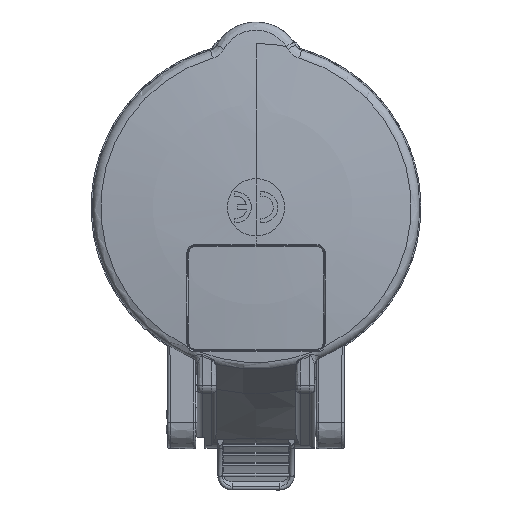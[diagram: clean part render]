
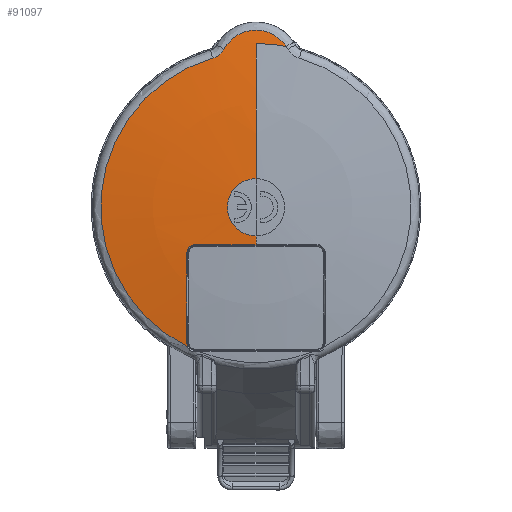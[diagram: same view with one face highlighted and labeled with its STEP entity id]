
A CAD part, front view. The second image highlights one B-rep face of the part: STEP entity #91097.
In plain terms, the highlighted spherical face has radius 250 mm.
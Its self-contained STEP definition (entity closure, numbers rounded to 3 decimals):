
#32537=CARTESIAN_POINT('',(-14.329,-48.277,
-29.182));
#32550=CARTESIAN_POINT('',(-14.329,-48.277,
-29.182));
#32551=CARTESIAN_POINT('',(-14.358,-48.284,
-29.112));
#32552=CARTESIAN_POINT('',(-14.407,-48.298,
-28.97));
#32553=CARTESIAN_POINT('',(-14.451,-48.321,
-28.749));
#32554=CARTESIAN_POINT('',(-14.462,-48.337,
-28.599));
#32555=CARTESIAN_POINT('',(-14.462,-48.346,
-28.523));
#32578=CARTESIAN_POINT('',(0.,-48.277,0.));
#32579=DIRECTION('',(0.,1.,0.));
#32580=DIRECTION('',(-0.441,0.,-0.898));
#32581=AXIS2_PLACEMENT_3D('',#32578,#32579,#32580);
#32586=CARTESIAN_POINT('',(0.,-48.043,0.));
#32587=DIRECTION('',(0.,1.,0.));
#32588=DIRECTION('',(0.,0.,1.));
#32589=AXIS2_PLACEMENT_3D('',#32586,#32587,#32588);
#32594=CARTESIAN_POINT('',(-6.633,-48.102,
33.164));
#32595=CARTESIAN_POINT('',(-6.707,-48.118,
33.03));
#32596=CARTESIAN_POINT('',(-6.866,-48.148,
32.773));
#32597=CARTESIAN_POINT('',(-7.15,-48.187,
32.415));
#32598=CARTESIAN_POINT('',(-7.47,-48.219,
32.093));
#32599=CARTESIAN_POINT('',(-7.823,-48.245,
31.81));
#32600=CARTESIAN_POINT('',(-8.208,-48.263,
31.566));
#32601=CARTESIAN_POINT('',(-8.62,-48.275,
31.367));
#32602=CARTESIAN_POINT('',(-8.904,-48.277,
31.267));
#32603=CARTESIAN_POINT('',(-9.049,-48.277,
31.225));
#34949=CARTESIAN_POINT('',(0.,199.6,0.));
#34950=DIRECTION('',(-1.,0.,0.));
#34951=DIRECTION('',(0.,-1.,-0.031));
#34952=AXIS2_PLACEMENT_3D('',#34949,#34950,#34951);
#34973=CARTESIAN_POINT('',(0.,199.6,0.));
#34974=DIRECTION('',(1.,0.,0.));
#34975=DIRECTION('',(0.,-0.991,0.137));
#34976=AXIS2_PLACEMENT_3D('',#34973,#34974,#34975);
#35504=CARTESIAN_POINT('',(-14.462,-48.346,
-28.523));
#35505=CARTESIAN_POINT('',(-14.462,-48.475,
-27.406));
#35506=CARTESIAN_POINT('',(-14.462,-48.701,
-25.302));
#35507=CARTESIAN_POINT('',(-14.462,-48.966,
-22.541));
#35508=CARTESIAN_POINT('',(-14.462,-49.172,
-20.127));
#35509=CARTESIAN_POINT('',(-14.462,-49.334,
-18.002));
#35510=CARTESIAN_POINT('',(-14.462,-49.465,
-16.085));
#35511=CARTESIAN_POINT('',(-14.462,-49.572,
-14.319));
#35512=CARTESIAN_POINT('',(-14.462,-49.662,
-12.656));
#35513=CARTESIAN_POINT('',(-14.462,-49.738,
-11.063));
#35514=CARTESIAN_POINT('',(-14.462,-49.781,
-10.022));
#35515=CARTESIAN_POINT('',(-14.462,-49.8,
-9.508));
#35538=CARTESIAN_POINT('',(-14.462,-49.8,
-9.508));
#35539=CARTESIAN_POINT('',(-14.462,-49.804,
-9.415));
#35540=CARTESIAN_POINT('',(-14.447,-49.811,
-9.232));
#35541=CARTESIAN_POINT('',(-14.38,-49.825,
-8.963));
#35542=CARTESIAN_POINT('',(-14.271,-49.84,
-8.708));
#35543=CARTESIAN_POINT('',(-14.122,-49.857,
-8.475));
#35544=CARTESIAN_POINT('',(-13.937,-49.874,
-8.268));
#35545=CARTESIAN_POINT('',(-13.722,-49.892,
-8.095));
#35546=CARTESIAN_POINT('',(-13.49,-49.909,
-7.963));
#35547=CARTESIAN_POINT('',(-13.249,-49.925,
-7.871));
#35548=CARTESIAN_POINT('',(-13.003,-49.939,
-7.818));
#35549=CARTESIAN_POINT('',(-12.841,-49.948,
-7.806));
#35550=CARTESIAN_POINT('',(-12.76,-49.952,
-7.806));
#35579=CARTESIAN_POINT('',(-12.76,-49.952,
-7.806));
#35580=CARTESIAN_POINT('',(-12.201,-49.981,
-7.806));
#35581=CARTESIAN_POINT('',(-11.144,-50.031,
-7.806));
#35582=CARTESIAN_POINT('',(-9.75,-50.089,
-7.806));
#35583=CARTESIAN_POINT('',(-8.515,-50.134,
-7.806));
#35584=CARTESIAN_POINT('',(-7.416,-50.169,
-7.806));
#35585=CARTESIAN_POINT('',(-6.41,-50.196,
-7.806));
#35586=CARTESIAN_POINT('',(-5.464,-50.219,
-7.806));
#35587=CARTESIAN_POINT('',(-4.549,-50.237,
-7.806));
#35588=CARTESIAN_POINT('',(-3.653,-50.252,
-7.806));
#35589=CARTESIAN_POINT('',(-2.758,-50.263,
-7.806));
#35590=CARTESIAN_POINT('',(-1.843,-50.272,
-7.806));
#35591=CARTESIAN_POINT('',(-0.918,-50.277,
-7.806));
#35592=CARTESIAN_POINT('',(-0.309,-50.278,
-7.806));
#35593=CARTESIAN_POINT('',(0.,-50.278,
-7.806));
#35940=CARTESIAN_POINT('',(0.,-50.328,0.));
#35941=DIRECTION('',(0.,1.,0.));
#35942=DIRECTION('',(0.,0.,-1.));
#35943=AXIS2_PLACEMENT_3D('',#35940,#35941,#35942);
#36468=CARTESIAN_POINT('',(6.338,-48.043,
33.658));
#36469=CARTESIAN_POINT('',(6.179,-48.014,
33.902));
#36470=CARTESIAN_POINT('',(5.836,-47.958,
34.369));
#36471=CARTESIAN_POINT('',(5.243,-47.882,
35.007));
#36472=CARTESIAN_POINT('',(4.582,-47.815,
35.571));
#36473=CARTESIAN_POINT('',(3.861,-47.757,
36.056));
#36474=CARTESIAN_POINT('',(3.09,-47.709,
36.455));
#36475=CARTESIAN_POINT('',(2.279,-47.672,
36.762));
#36476=CARTESIAN_POINT('',(1.439,-47.647,
36.975));
#36477=CARTESIAN_POINT('',(0.58,-47.633,
37.091));
#36478=CARTESIAN_POINT('',(-0.286,-47.631,
37.108));
#36479=CARTESIAN_POINT('',(-1.148,-47.641,
37.026));
#36480=CARTESIAN_POINT('',(-1.996,-47.662,
36.846));
#36481=CARTESIAN_POINT('',(-2.818,-47.695,
36.57));
#36482=CARTESIAN_POINT('',(-3.603,-47.739,
36.202));
#36483=CARTESIAN_POINT('',(-4.342,-47.794,
35.746));
#36484=CARTESIAN_POINT('',(-5.025,-47.858,
35.207));
#36485=CARTESIAN_POINT('',(-5.643,-47.931,
34.594));
#36486=CARTESIAN_POINT('',(-6.186,-48.013,
33.912));
#36487=CARTESIAN_POINT('',(-6.494,-48.071,
33.419));
#36488=CARTESIAN_POINT('',(-6.633,-48.102,
33.164));
#43817=VERTEX_POINT('',#36468);
#43818=VERTEX_POINT('',#36488);
#43821=VERTEX_POINT('',#32603);
#43823=CARTESIAN_POINT('',(0.,-48.043,34.25));
#43824=VERTEX_POINT('',#43823);
#43957=CARTESIAN_POINT('',(0.,-50.328,6.));
#43959=VERTEX_POINT('',#43957);
#43964=CARTESIAN_POINT('',(0.,-50.328,-6.));
#43965=VERTEX_POINT('',#43964);
#44226=VERTEX_POINT('',#32537);
#44227=VERTEX_POINT('',#32555);
#44230=VERTEX_POINT('',#35515);
#44232=VERTEX_POINT('',#35550);
#44234=VERTEX_POINT('',#35593);
#91070=CARTESIAN_POINT('',(0.,199.6,0.));
#91071=DIRECTION('',(0.,1.,0.));
#91072=DIRECTION('',(0.,0.,1.));
#91073=AXIS2_PLACEMENT_3D('',#91070,#91071,#91072);
#91074=SPHERICAL_SURFACE('1505',#91073,250.);
#91075=ORIENTED_EDGE('5633',*,*,#91048,.F.);
#91076=ORIENTED_EDGE('5654',*,*,#90895,.T.);
#91078=ORIENTED_EDGE('5232',*,*,#91077,.F.);
#91080=ORIENTED_EDGE('5230',*,*,#91079,.F.);
#91082=ORIENTED_EDGE('5234',*,*,#91081,.F.);
#91084=ORIENTED_EDGE('5371',*,*,#91083,.T.);
#91086=ORIENTED_EDGE('5358',*,*,#91085,.F.);
#91088=ORIENTED_EDGE('5656',*,*,#91087,.F.);
#91090=ORIENTED_EDGE('5639',*,*,#91089,.F.);
#91092=ORIENTED_EDGE('5637',*,*,#91091,.F.);
#91094=ORIENTED_EDGE('5635',*,*,#91093,.F.);
#91095=EDGE_LOOP('1505',(#91075,#91076,#91078,#91080,#91082,#91084,#91086,
#91088,#91090,#91092,#91094));
#91096=FACE_OUTER_BOUND('1505',#91095,.F.);
#32556=B_SPLINE_CURVE_WITH_KNOTS('5633',3,(#32550,#32551,#32552,#32553,#32554,
#32555),.UNSPECIFIED.,.F.,.F.,(4,1,1,4),(0.,0.333,
0.667,1.),.UNSPECIFIED.);
#32582=CIRCLE('5654',#32581,32.51);
#32590=CIRCLE('5234',#32589,34.25);
#32604=B_SPLINE_CURVE_WITH_KNOTS('5232',3,(#32594,#32595,#32596,#32597,#32598,
#32599,#32600,#32601,#32602,#32603),.UNSPECIFIED.,.F.,.F.,(4,1,1,1,1,1,1,4),(
0.,0.143,0.286,0.429,0.571,
0.714,0.857,1.),.UNSPECIFIED.);
#34953=CIRCLE('5656',#34952,250.);
#34977=CIRCLE('5371',#34976,250.);
#35516=B_SPLINE_CURVE_WITH_KNOTS('5635',3,(#35504,#35505,#35506,#35507,#35508,
#35509,#35510,#35511,#35512,#35513,#35514,#35515),.UNSPECIFIED.,.F.,.F.,(4,1,1,
1,1,1,1,1,1,4),(0.,0.111,0.222,0.333,
0.444,0.556,0.667,0.778,
0.889,1.),.UNSPECIFIED.);
#35551=B_SPLINE_CURVE_WITH_KNOTS('5637',3,(#35538,#35539,#35540,#35541,#35542,
#35543,#35544,#35545,#35546,#35547,#35548,#35549,#35550),.UNSPECIFIED.,.F.,.F.,(
4,1,1,1,1,1,1,1,1,1,4),(0.,0.1,0.2,0.3,0.4,0.5,0.6,0.7,0.8,
0.9,1.),.UNSPECIFIED.);
#35594=B_SPLINE_CURVE_WITH_KNOTS('5639',3,(#35579,#35580,#35581,#35582,#35583,
#35584,#35585,#35586,#35587,#35588,#35589,#35590,#35591,#35592,#35593),
.UNSPECIFIED.,.F.,.F.,(4,1,1,1,1,1,1,1,1,1,1,1,4),(0.,0.083,
0.167,0.25,0.333,0.417,0.5,
0.583,0.667,0.75,0.833,0.917,
1.),.UNSPECIFIED.);
#35944=CIRCLE('5358',#35943,6.);
#36489=B_SPLINE_CURVE_WITH_KNOTS('5230',3,(#36468,#36469,#36470,#36471,#36472,
#36473,#36474,#36475,#36476,#36477,#36478,#36479,#36480,#36481,#36482,#36483,
#36484,#36485,#36486,#36487,#36488),.UNSPECIFIED.,.F.,.F.,(4,1,1,1,1,1,1,1,1,1,
1,1,1,1,1,1,1,1,4),(0.,0.056,0.111,0.167,
0.222,0.278,0.333,0.389,
0.444,0.5,0.556,0.611,0.667,
0.722,0.778,0.833,0.889,
0.944,1.),.UNSPECIFIED.);
#90895=EDGE_CURVE('5654',#44226,#43821,#32582,.T.);
#91048=EDGE_CURVE('5633',#44226,#44227,#32556,.T.);
#91077=EDGE_CURVE('5232',#43818,#43821,#32604,.T.);
#91079=EDGE_CURVE('5230',#43817,#43818,#36489,.T.);
#91081=EDGE_CURVE('5234',#43824,#43817,#32590,.T.);
#91083=EDGE_CURVE('5371',#43824,#43959,#34977,.T.);
#91085=EDGE_CURVE('5358',#43965,#43959,#35944,.T.);
#91087=EDGE_CURVE('5656',#44234,#43965,#34953,.T.);
#91089=EDGE_CURVE('5639',#44232,#44234,#35594,.T.);
#91091=EDGE_CURVE('5637',#44230,#44232,#35551,.T.);
#91093=EDGE_CURVE('5635',#44227,#44230,#35516,.T.);
#91097=ADVANCED_FACE('1505',(#91096),#91074,.T.);
